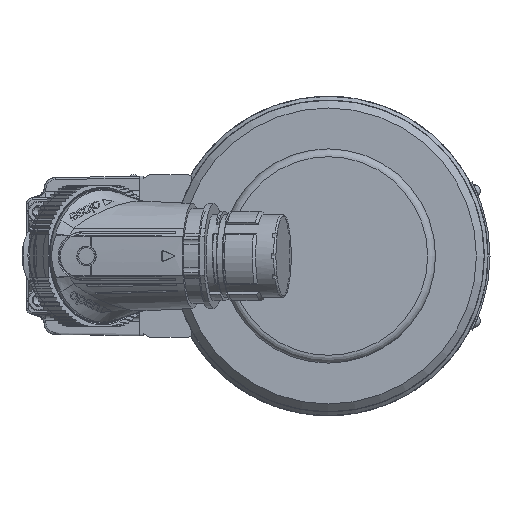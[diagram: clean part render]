
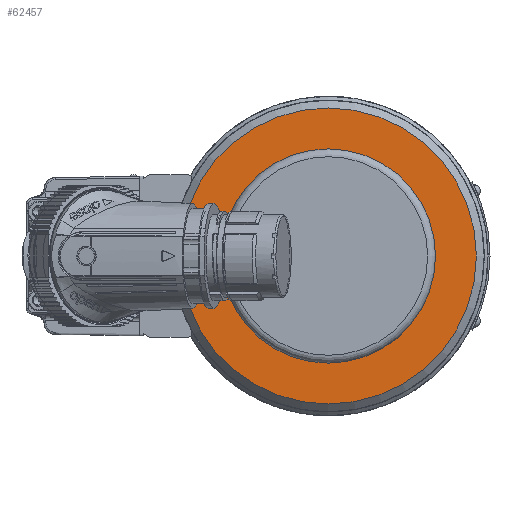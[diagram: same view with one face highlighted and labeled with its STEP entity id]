
A CAD part, left-side view. The second image highlights one B-rep face of the part: STEP entity #62457.
In plain terms, the highlighted planar face has unit normal (-1, 0, 0).
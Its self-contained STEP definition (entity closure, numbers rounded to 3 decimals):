
#9374 = EDGE_LOOP ( 'NONE', ( #78545 ) ) ;
#11911 = CARTESIAN_POINT ( 'NONE',  ( -357.5, 0., 0. ) ) ;
#15334 = DIRECTION ( 'NONE',  ( 1., 0., 0. ) ) ;
#18465 = DIRECTION ( 'NONE',  ( 0., 0., 1. ) ) ;
#19982 = FACE_BOUND ( 'NONE', #53994, .T. ) ;
#20257 = FACE_OUTER_BOUND ( 'NONE', #9374, .T. ) ;
#30141 = CIRCLE ( 'NONE', #51968, 37.999 ) ;
#31005 = PLANE ( 'NONE',  #45922 ) ;
#37468 = DIRECTION ( 'NONE',  ( 0., 0., 1. ) ) ;
#45922 = AXIS2_PLACEMENT_3D ( 'NONE', #50378, #76673, #37468 ) ;
#50378 = CARTESIAN_POINT ( 'NONE',  ( -357.5, 27.5, 0. ) ) ;
#51968 = AXIS2_PLACEMENT_3D ( 'NONE', #11911, #57386, #18465 ) ;
#53994 = EDGE_LOOP ( 'NONE', ( #79737 ) ) ;
#54296 = CARTESIAN_POINT ( 'NONE',  ( -357.5, 0., 0. ) ) ;
#57386 = DIRECTION ( 'NONE',  ( -1., 0., 0. ) ) ;
#57903 = EDGE_CURVE ( 'NONE', #71920, #71920, #76187, .T. ) ;
#60816 = DIRECTION ( 'NONE',  ( 0., 0., -1. ) ) ;
#62457 = ADVANCED_FACE ( 'NONE', ( #20257, #19982 ), #31005, .T. ) ;
#63201 = VERTEX_POINT ( 'NONE', #68789 ) ;
#66226 = CARTESIAN_POINT ( 'NONE',  ( -357.5, 0., -27.5 ) ) ;
#68789 = CARTESIAN_POINT ( 'NONE',  ( -357.5, 0., 37.999 ) ) ;
#70864 = AXIS2_PLACEMENT_3D ( 'NONE', #54296, #15334, #60816 ) ;
#71920 = VERTEX_POINT ( 'NONE', #66226 ) ;
#76187 = CIRCLE ( 'NONE', #70864, 27.5 ) ;
#76673 = DIRECTION ( 'NONE',  ( -1., 0., 0. ) ) ;
#78545 = ORIENTED_EDGE ( 'NONE', *, *, #82861, .T. ) ;
#79737 = ORIENTED_EDGE ( 'NONE', *, *, #57903, .T. ) ;
#82861 = EDGE_CURVE ( 'NONE', #63201, #63201, #30141, .T. ) ;
